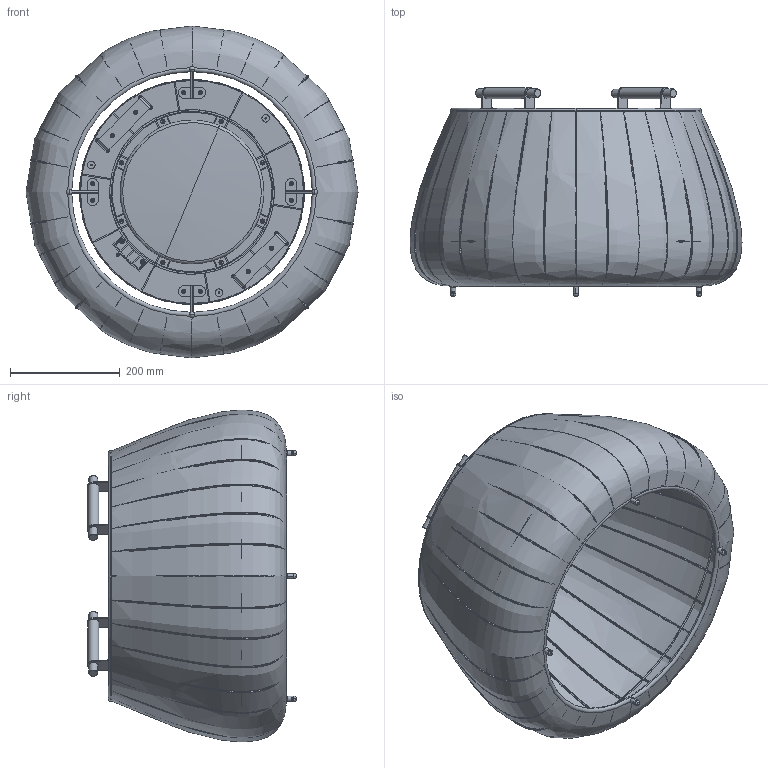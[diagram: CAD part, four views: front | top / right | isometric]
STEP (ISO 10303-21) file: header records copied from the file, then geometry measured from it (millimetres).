
FILE_DESCRIPTION (( 'STEP AP203' ), '1' );
FILE_NAME ('NANS BAG M-38-R 30931324xxx.STEP', '2023-08-02T13:42:25', ( '' ), ( '' ), 'SwSTEP 2.0', 'SolidWorks 2019', '' );
FILE_SCHEMA (( 'CONFIG_CONTROL_DESIGN' ));
Length unit declared in the file: millimetre
Products named in the file (28): 000-380_003B_Predeterminado<Como mecanizada>; 000-378-401; 000-380_EMSAMBLAJE ASA; 000-380-varilla pie; 000-D7985-45A2; 000-380-400; 000-380-027; 000-380_300; 000-378-406; 000-D7985-46A2; 000-380-XXX PAQUETE OPTICO BATERIA; NANS BAG M-38-R 30931324xxx; 000-tejido sub 001b; 000-SUB 380_004; 000-378-411; 000-D934-M4A2; 000-SUB 380 MESA COMPLETA BATERIA NANS BAG; 000-380-026; 000-D7985-48A2; 000-8845.12; 000-380-021; 000-D965-410A2; 000-D6798J-4.3A2; 000-D965-46-A2; 000-D965-412A2; 000-380_001B; 000-380-020
Assembly tree (70 placements, depth 4):
  NANS BAG M-38-R 30931324xxx
    000-SUB 380_004
      000-380_001B
      000-380_003B_Predeterminado<Como mecanizada>  x4
      000-380-varilla pie  x4
    000-380_300  x4
    000-tejido sub 001b
    000-SUB 380 MESA COMPLETA BATERIA NANS BAG
      000-380-XXX PAQUETE OPTICO BATERIA
        000-380-400
        000-378-411
        000-378-401
        000-D965-412A2  x8
        000-D965-410A2  x2
        000-378-406
        000-D7985-45A2  x2
        000-D7985-48A2  x4
        000-8845.12
      000-380_EMSAMBLAJE ASA
        000-380-020
        000-380-021
        000-380-026
        000-380-027  x2
        000-D934-M4A2  x2
        000-D6798J-4.3A2  x2
        000-D7985-46A2  x2
      000-380_EMSAMBLAJE ASA
        000-380-020
        000-380-021
        000-380-026
        000-380-027  x2
        000-D934-M4A2  x2
        000-D6798J-4.3A2  x2
        000-D7985-46A2  x2
    000-D965-46-A2  x8
Bounding box: 604.81 x 381.46 x 604.69 mm (x, y, z)
Volume: 1614300.1 mm3; surface area: 2236317.6 mm2
Topology: 74 solids, 76 shells, 3738 faces, 9399 edges, 5916 vertices
Faces by surface type: plane 1683, cylinder 1237, bspline 520, cone 186, torus 74, sphere 38
Entity records: 139771 total; most frequent: CARTESIAN_POINT 81514, ORIENTED_EDGE 12032, DIRECTION 10038, EDGE_CURVE 6016, VERTEX_POINT 3894, AXIS2_PLACEMENT_3D 3584, LINE 2870, VECTOR 2870
